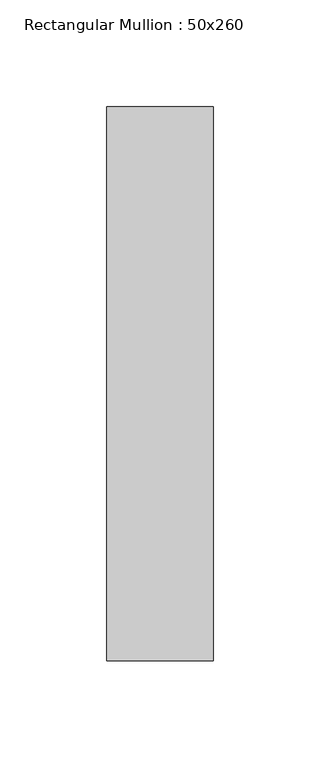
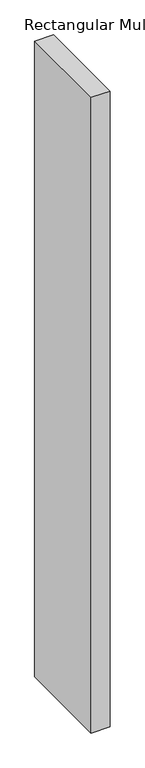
"""IFC4 building model written with IfcOpenShell, lengths in millimetres: member geometry, Rectangular Mullion : 50x260."""

import ifcopenshell
import ifcopenshell.guid

model = None  # the IFC model being written
_history = None  # IfcOwnerHistory: only IFC2X3 demands one
_inside = {}  # id of a spatial element -> (the spatial element, [elements in it])
_under = {}  # id of a project, library or spatial element -> (it, [spatial elements below it])
_declared = {}  # id of a project -> (the project, [libraries it declares])
_typed = {}  # id of a type object -> (the type object, [elements of that type])
_made_of = {}  # id of a material, layer set ... -> (it, [elements and type objects made of it])


def new_model(schema):
    """Start an empty IFC model of exactly this schema.

    Asked for "IFC4X3", IfcOpenShell would pick the latest addendum, in which some entities
    have other attributes; the version numbers below select the first issue.
    IFC2X3 requires an IfcOwnerHistory on every rooted entity: one is made here for all.
    """
    global model, _history
    if schema == "IFC4X3":
        model = ifcopenshell.file(schema_version=(4, 3, 0, 0))
    else:
        model = ifcopenshell.file(schema=schema)
    _inside.clear()
    _under.clear()
    _declared.clear()
    _typed.clear()
    _made_of.clear()
    _history = None
    if model.schema == "IFC2X3":
        org = make("IfcOrganization", Name="unknown")
        user = make(
            "IfcPersonAndOrganization",
            ThePerson=make("IfcPerson", FamilyName="unknown"),
            TheOrganization=org,
        )
        app = make(
            "IfcApplication",
            ApplicationDeveloper=org,
            Version="unknown",
            ApplicationFullName="unknown",
            ApplicationIdentifier="unknown",
        )
        _history = make(
            "IfcOwnerHistory",
            OwningUser=user,
            OwningApplication=app,
            ChangeAction="ADDED",
            CreationDate=0,
        )
    return model


def make(cls, **values):
    """One entity of the class cls with the attributes given. An attribute that is None is left unset."""
    return model.create_entity(
        cls, **{name: value for name, value in values.items() if value is not None}
    )


def rooted(cls, **values):
    """An entity with a GlobalId (a new one), such as an element, a storey or a relation."""
    return make(cls, GlobalId=ifcopenshell.guid.new(), OwnerHistory=_history, **values)


def si_unit(unit_type, name, prefix=None):
    """IfcSIUnit, for example si_unit("LENGTHUNIT", "METRE", prefix="MILLI")."""
    return make("IfcSIUnit", UnitType=unit_type, Prefix=prefix, Name=name)


def assignment(units):
    """IfcUnitAssignment: the units of a project."""
    return None if units is None else make("IfcUnitAssignment", Units=units)


def point(xyz):
    """IfcCartesianPoint."""
    return None if xyz is None else make("IfcCartesianPoint", Coordinates=xyz)


def direction(xyz):
    """IfcDirection."""
    return None if xyz is None else make("IfcDirection", DirectionRatios=xyz)


def frame(location, z_axis=None, x_axis=None):
    """IfcAxis2Placement3D, a coordinate frame: its origin and axes. An axis left out is left unset."""
    return make(
        "IfcAxis2Placement3D",
        Location=point(location),
        Axis=direction(z_axis),
        RefDirection=direction(x_axis),
    )


def origin():
    """The frame at (0, 0, 0) with its axes left unset."""
    return frame((0.0, 0.0, 0.0))


def place(relative_to, where):
    """IfcLocalPlacement: puts the frame where relative to a parent placement (None: the world)."""
    return make(
        "IfcLocalPlacement", PlacementRelTo=relative_to, RelativePlacement=where
    )


def context(
    kind, dimensions, precision=None, world=None, true_north=None, identifier=None
):
    """IfcGeometricRepresentationContext, for example the 3D "Model" context."""
    return make(
        "IfcGeometricRepresentationContext",
        ContextIdentifier=identifier,
        ContextType=kind,
        CoordinateSpaceDimension=dimensions,
        Precision=precision,
        WorldCoordinateSystem=world,
        TrueNorth=true_north,
    )


def project(units=None, contexts=None):
    """IfcProject with its units and contexts."""
    return rooted(
        "IfcProject",
        Name="project",
        RepresentationContexts=contexts,
        UnitsInContext=assignment(units),
    )


def spatial(cls, under=None, at=None, **own):
    """A site, building, storey or space (cls), placed at a placement, below another one or the project."""
    s = rooted(cls, ObjectPlacement=at, **own)
    if under is not None:
        _under.setdefault(under.id(), (under, []))[1].append(s)
    return s


def polyline(points):
    """IfcPolyline through the points."""
    return make("IfcPolyline", Points=[point(p) for p in points])


def outline(outer, holes=None, kind="AREA"):
    """IfcArbitraryClosedProfileDef: a profile drawn as a closed curve; with holes, ...WithVoids."""
    if holes is None:
        return make("IfcArbitraryClosedProfileDef", ProfileType=kind, OuterCurve=outer)
    return make(
        "IfcArbitraryProfileDefWithVoids",
        ProfileType=kind,
        OuterCurve=outer,
        InnerCurves=holes,
    )


def extrude(swept, where, along, depth):
    """IfcExtrudedAreaSolid: the profile swept, set in the frame where, extruded along a direction by depth."""
    return make(
        "IfcExtrudedAreaSolid",
        SweptArea=swept,
        Position=where,
        ExtrudedDirection=direction(along),
        Depth=depth,
    )


def shape(context_of_items, identifier, shape_type, items):
    """IfcShapeRepresentation: the items that make up one representation, for example the "Body"."""
    return make(
        "IfcShapeRepresentation",
        ContextOfItems=context_of_items,
        RepresentationIdentifier=identifier,
        RepresentationType=shape_type,
        Items=items,
    )


def source(mapping_origin, context_of_items, identifier, shape_type, items):
    """IfcRepresentationMap: a shape defined once, which mapped items show again and again."""
    return make(
        "IfcRepresentationMap",
        MappingOrigin=mapping_origin,
        MappedRepresentation=shape(context_of_items, identifier, shape_type, items),
    )


def transform(
    local_origin,
    x_axis=None,
    y_axis=None,
    z_axis=None,
    scale=None,
    scale2=None,
    scale3=None,
    uniform=True,
):
    """IfcCartesianTransformationOperator3D, or its non-uniform kind. x_axis, y_axis, z_axis: its Axis1, 2, 3."""
    if uniform:
        return make(
            "IfcCartesianTransformationOperator3D",
            Axis1=direction(x_axis),
            Axis2=direction(y_axis),
            LocalOrigin=point(local_origin),
            Scale=scale,
            Axis3=direction(z_axis),
        )
    return make(
        "IfcCartesianTransformationOperator3DnonUniform",
        Axis1=direction(x_axis),
        Axis2=direction(y_axis),
        LocalOrigin=point(local_origin),
        Scale=scale,
        Axis3=direction(z_axis),
        Scale2=scale2,
        Scale3=scale3,
    )


def mapped(mapping_source, mapping_target):
    """IfcMappedItem: shows the shape of a source again, moved by a transform."""
    return make(
        "IfcMappedItem", MappingSource=mapping_source, MappingTarget=mapping_target
    )


def made_of(thing, what):
    """Note that an element or type object is made of a material, layer set ...; save() writes the relation."""
    if what is not None:
        _made_of.setdefault(what.id(), (what, []))[1].append(thing)
    return thing


def element(
    cls,
    number,
    at=None,
    inside=None,
    cuts=None,
    type_object=None,
    material=None,
    context=None,
    identifier="Body",
    shape_type=None,
    held_by="IfcProductDefinitionShape",
    body=None,
    shapes=None,
    **own,
):
    """One element of the class cls, such as IfcWall. Its Tag is "e" and its number.

    at: its placement. inside: the storey or other place that contains it. cuts: it is an
    opening in that element (IfcRelVoidsElement). A single representation is given by context,
    identifier, shape_type and body (its items); several are given by shapes. held_by: the class
    of the entity that holds the representations. save() writes the other relations.
    """
    e = rooted(cls, Tag="e%d" % number, ObjectPlacement=at, **own)
    if body is not None:
        shapes = [shape(context, identifier, shape_type, body)]
    if shapes is not None:
        e.Representation = make(held_by, Representations=shapes)
    if inside is not None:
        _inside.setdefault(inside.id(), (inside, []))[1].append(e)
    if cuts is not None:
        rooted(
            "IfcRelVoidsElement", RelatingBuildingElement=cuts, RelatedOpeningElement=e
        )
    if type_object is not None:
        _typed.setdefault(type_object.id(), (type_object, []))[1].append(e)
    return made_of(e, material)


def aggregate(whole, parts):
    """IfcRelAggregates: a whole, such as a stair, and the parts it consists of."""
    return rooted("IfcRelAggregates", RelatingObject=whole, RelatedObjects=parts)


def save(model, path):
    """Write the relations noted so far, then the file.

    IfcRelAggregates (storeys below a building ...), IfcRelContainedInSpatialStructure (elements
    in a storey), IfcRelDefinesByType, IfcRelAssociatesMaterial and IfcRelDeclares: one each for
    every whole, place, type object, material and project.
    """
    for whole, parts in _under.values():
        aggregate(whole, parts)
    for where, things in _inside.values():
        rooted(
            "IfcRelContainedInSpatialStructure",
            RelatedElements=things,
            RelatingStructure=where,
        )
    for kind, things in _typed.values():
        rooted("IfcRelDefinesByType", RelatedObjects=things, RelatingType=kind)
    for what, things in _made_of.values():
        rooted("IfcRelAssociatesMaterial", RelatedObjects=things, RelatingMaterial=what)
    for by, libraries in _declared.values():
        rooted("IfcRelDeclares", RelatingContext=by, RelatedDefinitions=libraries)
    model.write(path)


def rectangular_mullion_50x260_c07c9d62(model_context):
    return source(origin(), model_context, "Body", "SweptSolid", [
        extrude(outline(polyline([(0.0, 130.0), (0.0, -130.0), (-50.0, -130.0), (-50.0, 130.0), (0.0, 130.0)])), frame((0.0, 0.0, -1785.8088066), z_axis=(0.0, 0.0, 1.0), x_axis=(1.0, 0.0, 0.0)), (0.0, 0.0, 1.0), 1785.8088066),
    ])


if __name__ == "__main__":
    model = new_model("IFC4")
    model_context = context("Model", 3, world=origin())
    ifc_project = project(units=[si_unit("LENGTHUNIT", "METRE", prefix="MILLI")], contexts=[model_context])
    site = spatial("IfcSite", under=ifc_project)
    building = spatial("IfcBuilding", under=site)
    placement = place(None, origin())
    rectangular_mullion_50x260_shape = rectangular_mullion_50x260_c07c9d62(model_context)
    element("IfcMember", 1, ObjectType="Rectangular Mullion : 50x260", at=placement, inside=building, context=model_context, shape_type="MappedRepresentation", body=[
        mapped(rectangular_mullion_50x260_shape, transform((0.0, 0.0, 0.0), x_axis=(1.0, 0.0, 0.0), y_axis=(0.0, 1.0, 0.0), z_axis=(0.0, 0.0, 1.0))),
    ])
    save(model, "model.ifc")
